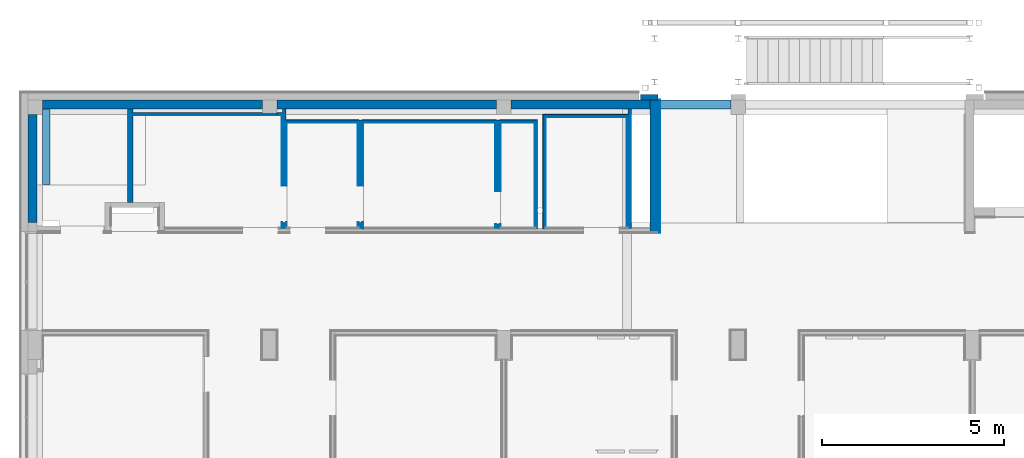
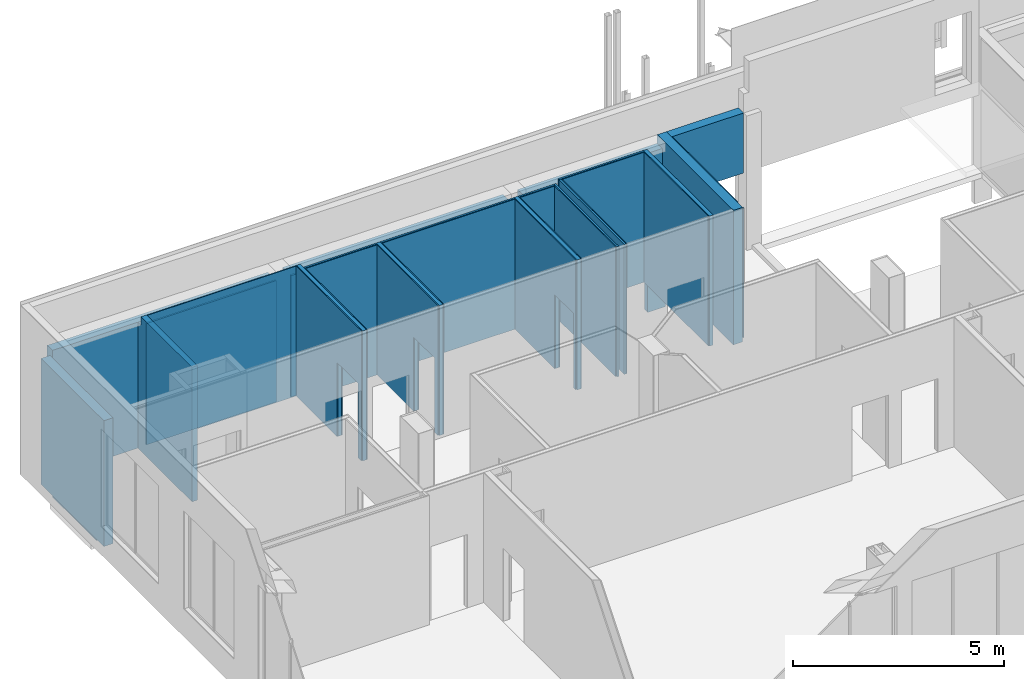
# One storey, part 23 of 29: 36 walls, 9 openings.
"""IFC2X3 building model written with IfcOpenShell, lengths in centimetres."""

from ifc_helpers import new_model, entity, si_unit, converted_unit, derived_unit, direction, frame, frame_2d, origin, origin_2d_with_axis, place, context, subcontext, project, spatial, polyline, rectangle, extrude, clip, bounded_halfspace, material, layer, layer_set, layer_usage, type_object, element, save


model = new_model("IFC2X3")

# Units and contexts
model_context = context("Model", 3, precision=0.001, world=origin(), true_north=direction((6.12303176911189e-17, 1.0)))
body_context = subcontext(model_context, "Body", "Model", "MODEL_VIEW")
ifc_project = project(units=[si_unit("LENGTHUNIT", "METRE", prefix="CENTI"), si_unit("AREAUNIT", "SQUARE_METRE"), si_unit("VOLUMEUNIT", "CUBIC_METRE"), converted_unit("PLANEANGLEUNIT", "DEGREE", entity("IfcRatioMeasure", 0.0174532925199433), si_unit("PLANEANGLEUNIT", "RADIAN"), dimensions=[0, 0, 0, 0, 0, 0, 0]), si_unit("MASSUNIT", "GRAM", prefix="KILO"), derived_unit("MASSDENSITYUNIT", [(si_unit("MASSUNIT", "GRAM", prefix="KILO"), 1), (si_unit("LENGTHUNIT", "METRE"), -3)]), derived_unit("MOMENTOFINERTIAUNIT", [(si_unit("LENGTHUNIT", "METRE"), 4)]), si_unit("TIMEUNIT", "SECOND"), si_unit("FREQUENCYUNIT", "HERTZ"), si_unit("THERMODYNAMICTEMPERATUREUNIT", "DEGREE_CELSIUS"), derived_unit("THERMALTRANSMITTANCEUNIT", [(si_unit("MASSUNIT", "GRAM", prefix="KILO"), 1), (si_unit("THERMODYNAMICTEMPERATUREUNIT", "KELVIN"), -1), (si_unit("TIMEUNIT", "SECOND"), -3)]), derived_unit("VOLUMETRICFLOWRATEUNIT", [(si_unit("LENGTHUNIT", "METRE"), 3), (si_unit("TIMEUNIT", "SECOND"), -1)]), si_unit("ELECTRICCURRENTUNIT", "AMPERE"), si_unit("ELECTRICVOLTAGEUNIT", "VOLT"), si_unit("POWERUNIT", "WATT"), si_unit("FORCEUNIT", "NEWTON", prefix="KILO"), si_unit("ILLUMINANCEUNIT", "LUX"), si_unit("LUMINOUSFLUXUNIT", "LUMEN"), si_unit("LUMINOUSINTENSITYUNIT", "CANDELA"), derived_unit("USERDEFINED", [(si_unit("MASSUNIT", "GRAM", prefix="KILO"), -1), (si_unit("LENGTHUNIT", "METRE"), -2), (si_unit("TIMEUNIT", "SECOND"), 3), (si_unit("LUMINOUSFLUXUNIT", "LUMEN"), 1)]), derived_unit("LINEARVELOCITYUNIT", [(si_unit("LENGTHUNIT", "METRE"), 1), (si_unit("TIMEUNIT", "SECOND"), -1)]), si_unit("PRESSUREUNIT", "PASCAL"), derived_unit("USERDEFINED", [(si_unit("LENGTHUNIT", "METRE"), -2), (si_unit("MASSUNIT", "GRAM", prefix="KILO"), 1), (si_unit("TIMEUNIT", "SECOND"), -2)]), derived_unit("LINEARFORCEUNIT", [(si_unit("MASSUNIT", "GRAM", prefix="KILO"), 1), (si_unit("LENGTHUNIT", "METRE"), 1), (si_unit("TIMEUNIT", "SECOND"), -2), (si_unit("LENGTHUNIT", "METRE"), -1)]), derived_unit("PLANARFORCEUNIT", [(si_unit("MASSUNIT", "GRAM", prefix="KILO"), 1), (si_unit("LENGTHUNIT", "METRE"), 1), (si_unit("TIMEUNIT", "SECOND"), -2), (si_unit("LENGTHUNIT", "METRE"), -2)])], contexts=[model_context])

# Site, building, storey
site_placement = place(None, origin())
site = spatial("IfcSite", under=ifc_project, at=site_placement, Name="Default", CompositionType="ELEMENT")
building_placement = place(site_placement, origin())
building = spatial("IfcBuilding", under=site, at=building_placement, CompositionType="ELEMENT")
storey_placement = place(building_placement, frame((0.0, 0.0, 545.0)))
storey = spatial("IfcBuildingStorey", under=building, at=storey_placement, Name="Poziom 1K +5,45", CompositionType="ELEMENT", Elevation=544.999999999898)

# Walls
ifc_material_1 = material(Name="_Beton C30/37")
ifc_layer_1 = layer(ifc_material_1, 25.0)
ifc_layer_set_1 = layer_set([ifc_layer_1], Name="Ściana podstawowa:Ściana żelbetowa gr. 25cm")
ifc_layer_usage_1 = layer_usage(ifc_layer_set_1, "AXIS2", "POSITIVE", -12.5)
wall_type_1 = type_object("IfcWallType", Name="Ściana podstawowa:Ściana żelbetowa gr. 25cm", PredefinedType="STANDARD", material=ifc_layer_set_1)
wall_1_placement = place(storey_placement, frame((-1209.2650935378, 2105.12745207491, 0.0), z_axis=(0.0, 0.0, 1.0), x_axis=(0.0, -1.0, 0.0)))
element("IfcWallStandardCase", 1, at=wall_1_placement, inside=storey, type_object=wall_type_1, material=ifc_layer_usage_1, Name="Ściana podstawowa:Ściana żelbetowa gr. 25cm", ObjectType="Ściana podstawowa:Ściana żelbetowa gr. 25cm", context=body_context, shape_type="SweptSolid", body=[
    extrude(rectangle(XDim=362.000000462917, YDim=24.9999999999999, at=frame_2d((181.000000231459, 0.0), x_axis=(-1.0, 0.0))), origin(), (0.0, 0.0, 1.0), 390.000000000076),
])
ifc_layer_usage_2 = layer_usage(ifc_layer_set_1, "AXIS2", "POSITIVE", -12.5)
wall_2_placement = place(storey_placement, frame((-2894.26510657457, 2092.62745206, 0.0)))
element("IfcWallStandardCase", 2, at=wall_2_placement, inside=storey, type_object=wall_type_1, material=ifc_layer_usage_2, Name="Ściana podstawowa:Ściana żelbetowa gr. 25cm", ObjectType="Ściana podstawowa:Ściana żelbetowa gr. 25cm", context=body_context, shape_type="SweptSolid", body=[
    extrude(rectangle(XDim=604.999997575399, YDim=25.0000000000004, at=frame_2d((302.499998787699, 7.105427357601e-14), x_axis=(-1.0, 0.0))), origin(), (0.0, 0.0, 1.0), 365.000000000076),
])
ifc_layer_usage_3 = layer_usage(ifc_layer_set_1, "AXIS2", "POSITIVE", -12.5)
wall_3_placement = place(storey_placement, frame((-2249.26511188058, 2092.62745206, 0.0)))
element("IfcWallStandardCase", 3, at=wall_3_placement, inside=storey, type_object=wall_type_1, material=ifc_layer_usage_3, Name="Ściana podstawowa:Ściana żelbetowa gr. 25cm", ObjectType="Ściana podstawowa:Ściana żelbetowa gr. 25cm", context=body_context, shape_type="SweptSolid", body=[
    extrude(rectangle(XDim=604.999997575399, YDim=25.0000000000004, at=frame_2d((302.499998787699, 7.105427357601e-14), x_axis=(-1.0, 0.0))), origin(), (0.0, 0.0, 1.0), 365.000000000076),
])
ifc_layer_usage_4 = layer_usage(ifc_layer_set_1, "AXIS2", "POSITIVE", -12.5)
wall_4_placement = place(storey_placement, frame((-1604.26510899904, 2092.62745206, 0.0)))
element("IfcWallStandardCase", 4, at=wall_4_placement, inside=storey, type_object=wall_type_1, material=ifc_layer_usage_4, Name="Ściana podstawowa:Ściana żelbetowa gr. 25cm", ObjectType="Ściana podstawowa:Ściana żelbetowa gr. 25cm", context=body_context, shape_type="SweptSolid", body=[
    extrude(rectangle(XDim=382.500015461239, YDim=25.0000000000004, at=frame_2d((191.250007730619, 4.44089209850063e-14), x_axis=(-1.0, 0.0))), origin(), (0.0, 0.0, 1.0), 365.000000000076),
])
ifc_layer_usage_5 = layer_usage(ifc_layer_set_1, "AXIS2", "NEGATIVE", 12.5)
wall_5_placement = place(storey_placement, frame((-1196.7650935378, 2092.62745207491, 216.0)))
element("IfcWallStandardCase", 5, at=wall_5_placement, inside=storey, type_object=wall_type_1, material=ifc_layer_usage_5, Name="Ściana podstawowa:Ściana żelbetowa gr. 25cm", ObjectType="Ściana podstawowa:Ściana żelbetowa gr. 25cm", context=body_context, shape_type="SweptSolid", body=[
    extrude(rectangle(XDim=197.499984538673, YDim=25.0000000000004, at=frame_2d((98.7499922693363, 0.0), x_axis=(-1.0, 0.0))), origin(), (0.0, 0.0, 1.0), 174.000000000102),
])
ifc_material_2 = material(Name="Pustak ceramiczny, klasa 15")
ifc_layer_2 = layer(ifc_material_2, 25.0)
ifc_layer_set_2 = layer_set([ifc_layer_2], Name="Ściana podstawowa:Ściana murowana gr. 25cm")
ifc_layer_usage_6 = layer_usage(ifc_layer_set_2, "AXIS2", "POSITIVE", -12.5)
wall_type_2 = type_object("IfcWallType", Name="Ściana podstawowa:Ściana murowana gr. 25cm", PredefinedType="STANDARD", material=ifc_layer_set_2)
wall_6_placement = place(storey_placement, frame((-2921.76510657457, 2065.12745207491, 0.0), z_axis=(0.0, 0.0, 1.0), x_axis=(0.0, -1.0, 0.0)))
element("IfcWallStandardCase", 6, at=wall_6_placement, inside=storey, type_object=wall_type_2, material=ifc_layer_usage_6, Name="Ściana podstawowa:Ściana murowana gr. 25cm", ObjectType="Ściana podstawowa:Ściana murowana gr. 25cm", context=body_context, shape_type="SweptSolid", body=[
    extrude(rectangle(XDim=298.000000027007, YDim=25.0000000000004, at=frame_2d((149.000000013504, 0.0), x_axis=(-1.0, 0.0))), origin(), (0.0, 0.0, 1.0), 365.000000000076),
])
ifc_material_3 = material(Name="Pustak silikatowy")
ifc_layer_3 = layer(ifc_material_3, 15.0)
ifc_layer_set_3 = layer_set([ifc_layer_3], Name="Ściana podstawowa:Ściana murowana bloczki silikatowegr. 15cm")
ifc_layer_usage_7 = layer_usage(ifc_layer_set_3, "AXIS2", "NEGATIVE", 7.5)
wall_type_3 = type_object("IfcWallType", Name="Ściana podstawowa:Ściana murowana bloczki silikatowegr. 15cm", PredefinedType="STANDARD", material=ifc_layer_set_3)
wall_7_placement = place(storey_placement, frame((-2652.76510453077, 2080.12745206, 0.0), z_axis=(0.0, 0.0, 1.0), x_axis=(0.0, -1.0, 0.0)))
element("IfcWallStandardCase", 7, at=wall_7_placement, inside=storey, type_object=wall_type_3, material=ifc_layer_usage_7, Name="Ściana podstawowa:Ściana murowana bloczki silikatowegr. 15cm", ObjectType="Ściana podstawowa:Ściana murowana bloczki silikatowegr. 15cm", context=body_context, shape_type="Clipping", body=[
    clip(clip(extrude(rectangle(XDim=257.000000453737, YDim=15.0000000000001, at=frame_2d((128.500000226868, 0.0), x_axis=(-1.0, 0.0))), origin(), (0.0, 0.0, 1.0), 390.000000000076), bounded_halfspace(frame((15.0, 7.50000000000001, 365.0), z_axis=(-1.0, 0.0, 0.0), x_axis=(0.0, 0.0, -1.0)), False, frame((15.0, 7.50000000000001, 365.0), z_axis=(-1.0, 0.0, 0.0), x_axis=(0.0, 0.0, -1.0)), polyline([(0.0, 0.0), (0.0, 15.0), (-25.0, 15.0), (-25.0, 0.0), (0.0, 0.0)]))), bounded_halfspace(frame((15.0, -7.50000000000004, 365.0), z_axis=(0.0, 0.0, 1.0), x_axis=(-1.0, 0.0, 0.0)), False, frame((15.0, -7.50000000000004, 365.0), z_axis=(0.0, 0.0, 1.0), x_axis=(-1.0, 0.0, 0.0)), polyline([(0.0, 0.0), (0.0, -15.0), (15.0, -15.0), (15.0, 0.0), (0.0, 0.0)]))),
])

# Wall, opening
ifc_material_4 = material(Name="Wełna skalna")
ifc_layer_4 = layer(ifc_material_4, 10.0)
ifc_layer_set_4 = layer_set([ifc_layer_4], Name="Ściana podstawowa:Ściana GK rdzeń gr. 10cm")
ifc_layer_usage_8 = layer_usage(ifc_layer_set_4, "AXIS2", "NEGATIVE", 5.0)
wall_type_4 = type_object("IfcWallType", Name="Ściana podstawowa:Ściana GK rdzeń gr. 10cm", PredefinedType="STANDARD", material=ifc_layer_set_4)
wall_8_placement = place(storey_placement, frame((-2228.76511745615, 2080.12745206, 13.0), z_axis=(0.0, 0.0, 1.0), x_axis=(0.0, -1.0, 0.0)))
wall_8 = element("IfcWallStandardCase", 8, at=wall_8_placement, inside=storey, type_object=wall_type_4, material=ifc_layer_usage_8, Name="Ściana podstawowa:Ściana GK rdzeń gr. 10cm", ObjectType="Ściana podstawowa:Ściana GK rdzeń gr. 10cm", context=body_context, shape_type="Clipping", body=[
    clip(clip(extrude(rectangle(XDim=329.500000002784, YDim=10.0000000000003, at=frame_2d((164.750000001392, -8.88178419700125e-16), x_axis=(-1.0, 0.0))), origin(), (0.0, 0.0, 1.0), 377.000000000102), bounded_halfspace(frame((15.0, 5.0, 352.0), z_axis=(-1.0, 0.0, 0.0), x_axis=(0.0, 0.0, -1.0)), False, frame((15.0, 5.0, 352.0), z_axis=(-1.0, 0.0, 0.0), x_axis=(0.0, 0.0, -1.0)), polyline([(0.0, 0.0), (0.0, 10.0), (-25.0, 10.0), (-25.0, 0.0), (0.0, 0.0)]))), bounded_halfspace(frame((15.0, -5.0, 352.0), z_axis=(0.0, 0.0, 1.0), x_axis=(-1.0, 0.0, 0.0)), False, frame((15.0, -5.0, 352.0), z_axis=(0.0, 0.0, 1.0), x_axis=(-1.0, 0.0, 0.0)), polyline([(0.0, 0.0), (0.0, -10.0), (15.0, -10.0), (15.0, 0.0), (0.0, 0.0)]))),
])
opening_1_placement = place(wall_8_placement, origin())
element("IfcOpeningElement", 9, at=opening_1_placement, cuts=wall_8, Name="Ściana podstawowa:Ściana GK rdzeń gr. 10cm", ObjectType="Opening", context=body_context, shape_type="SweptSolid", body=[
    extrude(rectangle(XDim=215.0, YDim=100.0, at=frame_2d((1.10134124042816e-13, 0.0), x_axis=(0.0, 1.0))), frame((262.0, -157.4, 107.5), z_axis=(0.0, 1.0, 0.0), x_axis=(1.0, 0.0, 0.0)), (0.0, 0.0, 1.0), 304.8),
])

ifc_layer_usage_9 = layer_usage(ifc_layer_set_4, "AXIS2", "NEGATIVE", 5.0)
wall_9_placement = place(storey_placement, frame((-2018.76511746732, 2050.12745209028, 13.0), z_axis=(0.0, 0.0, 1.0), x_axis=(0.0, -1.0, 0.0)))
wall_9 = element("IfcWallStandardCase", 10, at=wall_9_placement, inside=storey, type_object=wall_type_4, material=ifc_layer_usage_9, Name="Ściana podstawowa:Ściana GK rdzeń gr. 10cm", ObjectType="Ściana podstawowa:Ściana GK rdzeń gr. 10cm", context=body_context, shape_type="SweptSolid", body=[
    extrude(rectangle(XDim=299.500000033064, YDim=10.0000000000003, at=frame_2d((149.750000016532, 0.0), x_axis=(-1.0, 0.0))), origin(), (0.0, 0.0, 1.0), 377.000000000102),
])
opening_2_placement = place(wall_9_placement, origin())
element("IfcOpeningElement", 11, at=opening_2_placement, cuts=wall_9, Name="Ściana podstawowa:Ściana GK rdzeń gr. 10cm", ObjectType="Opening", context=body_context, shape_type="SweptSolid", body=[
    extrude(rectangle(XDim=215.0, YDim=100.0, at=frame_2d((0.0, 1.06581410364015e-13), x_axis=(1.0, 0.0))), frame((232.0, -147.4, 107.5), z_axis=(0.0, 1.0, 0.0), x_axis=(0.0, 0.0, -1.0)), (0.0, 0.0, 1.0), 304.8),
])

ifc_layer_usage_10 = layer_usage(ifc_layer_set_4, "AXIS2", "NEGATIVE", 5.0)
wall_10_placement = place(storey_placement, frame((-1640.7651174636, 2050.12745209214, 13.0), z_axis=(0.0, 0.0, 1.0), x_axis=(0.0, -1.0, 0.0)))
wall_10 = element("IfcWallStandardCase", 12, at=wall_10_placement, inside=storey, type_object=wall_type_4, material=ifc_layer_usage_10, Name="Ściana podstawowa:Ściana GK rdzeń gr. 10cm", ObjectType="Ściana podstawowa:Ściana GK rdzeń gr. 10cm", context=body_context, shape_type="SweptSolid", body=[
    extrude(rectangle(XDim=299.500000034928, YDim=9.99999999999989, at=frame_2d((149.750000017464, 0.0), x_axis=(-1.0, 0.0))), origin(), (0.0, 0.0, 1.0), 377.000000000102),
])
opening_3_placement = place(wall_10_placement, origin())
element("IfcOpeningElement", 13, at=opening_3_placement, cuts=wall_10, Name="Ściana podstawowa:Ściana GK rdzeń gr. 10cm", ObjectType="Opening", context=body_context, shape_type="SweptSolid", body=[
    extrude(rectangle(XDim=215.0, YDim=89.9999999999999, at=origin_2d_with_axis()), frame((242.0, -147.4, 107.5), z_axis=(0.0, 1.0, 0.0), x_axis=(0.0, 0.0, -1.0)), (0.0, 0.0, 1.0), 304.8),
])

# Walls
ifc_layer_usage_11 = layer_usage(ifc_layer_set_4, "AXIS2", "NEGATIVE", 5.0)
wall_11_placement = place(storey_placement, frame((-1277.7651174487, 2080.12745206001, 13.0), z_axis=(0.0, 0.0, 1.0), x_axis=(0.0, -1.0, 0.0)))
element("IfcWallStandardCase", 14, at=wall_11_placement, inside=storey, type_object=wall_type_4, material=ifc_layer_usage_11, Name="Ściana podstawowa:Ściana GK rdzeń gr. 10cm", ObjectType="Ściana podstawowa:Ściana GK rdzeń gr. 10cm", context=body_context, shape_type="Clipping", body=[
    clip(clip(extrude(rectangle(XDim=329.500000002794, YDim=9.99999999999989, at=frame_2d((164.750000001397, -8.88178419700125e-16), x_axis=(-1.0, 0.0))), origin(), (0.0, 0.0, 1.0), 377.000000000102), bounded_halfspace(frame((15.0, 5.0, 352.0), z_axis=(-1.0, 0.0, 0.0), x_axis=(0.0, 0.0, -1.0)), False, frame((15.0, 5.0, 352.0), z_axis=(-1.0, 0.0, 0.0), x_axis=(0.0, 0.0, -1.0)), polyline([(0.0, 0.0), (0.0, 10.0), (-25.0, 10.0), (-25.0, 0.0), (0.0, 0.0)]))), bounded_halfspace(frame((15.0, -5.0, 352.0), z_axis=(0.0, 0.0, 1.0), x_axis=(-1.0, 0.0, 0.0)), False, frame((15.0, -5.0, 352.0), z_axis=(0.0, 0.0, 1.0), x_axis=(-1.0, 0.0, 0.0)), polyline([(0.0, 0.0), (0.0, -10.0), (15.0, -10.0), (15.0, 0.0), (0.0, 0.0)]))),
])
ifc_layer_5 = layer(ifc_material_4, 5.0)
ifc_layer_set_5 = layer_set([ifc_layer_5], Name="Ściana podstawowa:Ściana GK rdzeń gr. 5cm")
ifc_layer_usage_12 = layer_usage(ifc_layer_set_5, "AXIS2", "NEGATIVE", 2.5)
wall_type_5 = type_object("IfcWallType", Name="Ściana podstawowa:Ściana GK rdzeń gr. 5cm", PredefinedType="STANDARD", material=ifc_layer_set_5)
wall_12_placement = place(storey_placement, frame((-1514.26511747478, 1750.62745205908, 13.0), z_axis=(0.0, 0.0, 1.0), x_axis=(0.0, 1.0, 0.0)))
element("IfcWallStandardCase", 15, at=wall_12_placement, inside=storey, type_object=wall_type_5, material=ifc_layer_usage_12, Name="Ściana podstawowa:Ściana GK rdzeń gr. 5cm", ObjectType="Ściana podstawowa:Ściana GK rdzeń gr. 5cm", context=body_context, shape_type="SweptSolid", body=[
    extrude(rectangle(XDim=309.500000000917, YDim=5.00000000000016, at=frame_2d((154.750000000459, -3.33066907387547e-15), x_axis=(-1.0, 0.0))), origin(), (0.0, 0.0, 1.0), 377.000000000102),
])
ifc_layer_usage_13 = layer_usage(ifc_layer_set_5, "AXIS2", "NEGATIVE", 2.5)
wall_13_placement = place(storey_placement, frame((-1516.76511747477, 2062.62745206, 13.0)))
element("IfcWallStandardCase", 16, at=wall_13_placement, inside=storey, type_object=wall_type_5, material=ifc_layer_usage_13, Name="Ściana podstawowa:Ściana GK rdzeń gr. 5cm", ObjectType="Ściana podstawowa:Ściana GK rdzeń gr. 5cm", context=body_context, shape_type="SweptSolid", body=[
    extrude(rectangle(XDim=234.000000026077, YDim=4.99999999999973, at=frame_2d((117.000000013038, -3.10862446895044e-15), x_axis=(-1.0, 0.0))), origin(), (0.0, 0.0, 1.0), 377.000000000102),
])
ifc_layer_usage_14 = layer_usage(ifc_layer_set_5, "AXIS2", "NEGATIVE", 2.5)
wall_14_placement = place(storey_placement, frame((-1534.26511747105, 2050.12745208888, 13.0), z_axis=(0.0, 0.0, 1.0), x_axis=(0.0, -1.0, 0.0)))
element("IfcWallStandardCase", 17, at=wall_14_placement, inside=storey, type_object=wall_type_5, material=ifc_layer_usage_14, Name="Ściana podstawowa:Ściana GK rdzeń gr. 5cm", ObjectType="Ściana podstawowa:Ściana GK rdzeń gr. 5cm", context=body_context, shape_type="SweptSolid", body=[
    extrude(rectangle(XDim=299.500000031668, YDim=5.00000000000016, at=frame_2d((149.750000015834, 0.0), x_axis=(-1.0, 0.0))), origin(), (0.0, 0.0, 1.0), 377.000000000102),
])
ifc_layer_usage_15 = layer_usage(ifc_layer_set_5, "AXIS2", "NEGATIVE", 2.5)
wall_15_placement = place(storey_placement, frame((-2223.76511745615, 2047.62745209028, 13.0)))
element("IfcWallStandardCase", 18, at=wall_15_placement, inside=storey, type_object=wall_type_5, material=ifc_layer_usage_15, Name="Ściana podstawowa:Ściana GK rdzeń gr. 5cm", ObjectType="Ściana podstawowa:Ściana GK rdzeń gr. 5cm", context=body_context, shape_type="SweptSolid", body=[
    extrude(rectangle(XDim=199.999999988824, YDim=4.99999999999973, at=frame_2d((99.999999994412, 9.88098491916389e-14), x_axis=(-1.0, 0.0))), origin(), (0.0, 0.0, 1.0), 377.000000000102),
])
ifc_layer_usage_16 = layer_usage(ifc_layer_set_5, "AXIS2", "NEGATIVE", 2.5)
wall_16_placement = place(storey_placement, frame((-1635.7651174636, 2047.62745209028, 13.0)))
element("IfcWallStandardCase", 19, at=wall_16_placement, inside=storey, type_object=wall_type_5, material=ifc_layer_usage_16, Name="Ściana podstawowa:Ściana GK rdzeń gr. 5cm", ObjectType="Ściana podstawowa:Ściana GK rdzeń gr. 5cm", context=body_context, shape_type="SweptSolid", body=[
    extrude(rectangle(XDim=98.9999999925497, YDim=4.99999999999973, at=frame_2d((49.4999999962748, -6.03961325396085e-14), x_axis=(-1.0, 0.0))), origin(), (0.0, 0.0, 1.0), 377.000000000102),
])
ifc_layer_usage_17 = layer_usage(ifc_layer_set_5, "AXIS2", "NEGATIVE", 2.5)
wall_17_placement = place(storey_placement, frame((-2013.76511746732, 2047.62745209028, 13.0)))
element("IfcWallStandardCase", 20, at=wall_17_placement, inside=storey, type_object=wall_type_5, material=ifc_layer_usage_17, Name="Ściana podstawowa:Ściana GK rdzeń gr. 5cm", ObjectType="Ściana podstawowa:Ściana GK rdzeń gr. 5cm", context=body_context, shape_type="SweptSolid", body=[
    extrude(rectangle(XDim=368.000000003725, YDim=4.99999999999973, at=frame_2d((184.000000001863, 1.46993528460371e-13), x_axis=(-1.0, 0.0))), origin(), (0.0, 0.0, 1.0), 377.000000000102),
])
ifc_layer_usage_18 = layer_usage(ifc_layer_set_5, "AXIS2", "NEGATIVE", 2.5)
wall_18_placement = place(storey_placement, frame((-2645.26510453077, 2067.62745207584, 13.0)))
element("IfcWallStandardCase", 21, at=wall_18_placement, inside=storey, type_object=wall_type_5, material=ifc_layer_usage_18, Name="Ściana podstawowa:Ściana GK rdzeń gr. 5cm", ObjectType="Ściana podstawowa:Ściana GK rdzeń gr. 5cm", context=body_context, shape_type="Clipping", body=[
    clip(extrude(rectangle(XDim=355.999995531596, YDim=4.99999999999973, at=frame_2d((177.999997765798, 0.0), x_axis=(-1.0, 0.0))), origin(), (0.0, 0.0, 1.0), 351.99999999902), bounded_halfspace(frame((0.0, -2.5000000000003, 352.0), z_axis=(0.0, 0.0, 1.0), x_axis=(0.0, 1.0, 0.0)), False, frame((0.0, -2.5000000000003, 352.0), z_axis=(0.0, 0.0, 1.0), x_axis=(0.0, 1.0, 0.0)), polyline([(0.0, 0.0), (0.0, -355.999995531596), (5.0, -355.999995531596), (5.0, 0.0), (0.0, 0.0)]))),
])
ifc_layer_usage_19 = layer_usage(ifc_layer_set_5, "AXIS2", "NEGATIVE", 2.5)
wall_19_placement = place(storey_placement, frame((-2249.26510899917, 2067.62745207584, 13.0)))
element("IfcWallStandardCase", 22, at=wall_19_placement, inside=storey, type_object=wall_type_5, material=ifc_layer_usage_19, Name="Ściana podstawowa:Ściana GK rdzeń gr. 5cm", ObjectType="Ściana podstawowa:Ściana GK rdzeń gr. 5cm", context=body_context, shape_type="Clipping", body=[
    clip(extrude(rectangle(XDim=15.4999915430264, YDim=4.99999999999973, at=frame_2d((7.7499957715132, 0.0), x_axis=(-1.0, 0.0))), origin(), (0.0, 0.0, 1.0), 351.99999999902), bounded_halfspace(frame((0.0, -2.5000000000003, 352.0), z_axis=(0.0, 0.0, 1.0), x_axis=(0.0, 1.0, 0.0)), False, frame((0.0, -2.5000000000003, 352.0), z_axis=(0.0, 0.0, 1.0), x_axis=(0.0, 1.0, 0.0)), polyline([(0.0, 0.0), (0.0, -15.4999915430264), (5.0, -15.4999915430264), (5.0, 0.0), (0.0, 0.0)]))),
])
ifc_material_5 = material(Name="Tynk gipsowy")
ifc_layer_6 = layer(ifc_material_5, 2.5)
ifc_layer_set_6 = layer_set([ifc_layer_6], Name="Ściana podstawowa:Ściana GK wykonczenie gr. 2,5cm")
ifc_layer_usage_20 = layer_usage(ifc_layer_set_6, "AXIS2", "NEGATIVE", 1.25)
wall_type_6 = type_object("IfcWallType", Name="Ściana podstawowa:Ściana GK wykonczenie gr. 2,5cm", PredefinedType="STANDARD", material=ifc_layer_set_6)
wall_20_placement = place(storey_placement, frame((-2645.26510453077, 2063.87745207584, 13.0)))
element("IfcWallStandardCase", 23, at=wall_20_placement, inside=storey, type_object=wall_type_6, material=ifc_layer_usage_20, Name="Ściana podstawowa:Ściana GK wykonczenie gr. 2,5cm", ObjectType="Ściana podstawowa:Ściana GK wykonczenie gr. 2,5cm", context=body_context, shape_type="SweptSolid", body=[
    extrude(rectangle(XDim=411.499987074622, YDim=2.5000000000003, at=frame_2d((205.749993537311, 0.0), x_axis=(-1.0, 0.0))), origin(), (0.0, 0.0, 1.0), 377.000000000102),
])

# Wall, opening
ifc_layer_usage_21 = layer_usage(ifc_layer_set_6, "AXIS2", "NEGATIVE", 1.25)
wall_21_placement = place(storey_placement, frame((-2235.01511745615, 2062.62745207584, 13.0), z_axis=(0.0, 0.0, 1.0), x_axis=(0.0, -1.0, 0.0)))
wall_21 = element("IfcWallStandardCase", 24, at=wall_21_placement, inside=storey, type_object=wall_type_6, material=ifc_layer_usage_21, Name="Ściana podstawowa:Ściana GK wykonczenie gr. 2,5cm", ObjectType="Ściana podstawowa:Ściana GK wykonczenie gr. 2,5cm", context=body_context, shape_type="SweptSolid", body=[
    extrude(rectangle(XDim=309.500000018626, YDim=2.5000000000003, at=frame_2d((154.750000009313, -3.5527136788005e-15), x_axis=(-1.0, 0.0))), origin(), (0.0, 0.0, 1.0), 377.000000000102),
])
opening_4_placement = place(wall_21_placement, origin())
element("IfcOpeningElement", 25, at=opening_4_placement, cuts=wall_21, Name="Ściana podstawowa:Ściana GK wykonczenie gr. 2,5cm", ObjectType="Opening", context=body_context, shape_type="SweptSolid", body=[
    extrude(rectangle(XDim=215.0, YDim=100.0, at=frame_2d((1.10134124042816e-13, 0.0), x_axis=(0.0, 1.0))), frame((244.500000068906, -151.15, 107.5), z_axis=(0.0, 1.0, 0.0), x_axis=(1.0, 0.0, 0.0)), (0.0, 0.0, 1.0), 304.8),
])

ifc_layer_usage_22 = layer_usage(ifc_layer_set_6, "AXIS2", "NEGATIVE", 1.25)
wall_22_placement = place(storey_placement, frame((-2222.51511745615, 1750.62745205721, 13.0), z_axis=(0.0, 0.0, 1.0), x_axis=(0.0, 1.0, 0.0)))
wall_22 = element("IfcWallStandardCase", 26, at=wall_22_placement, inside=storey, type_object=wall_type_6, material=ifc_layer_usage_22, Name="Ściana podstawowa:Ściana GK wykonczenie gr. 2,5cm", ObjectType="Ściana podstawowa:Ściana GK wykonczenie gr. 2,5cm", context=body_context, shape_type="SweptSolid", body=[
    extrude(rectangle(XDim=292.000000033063, YDim=2.5000000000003, at=frame_2d((146.000000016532, -1.77635683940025e-15), x_axis=(-1.0, 0.0))), origin(), (0.0, 0.0, 1.0), 377.000000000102),
])
opening_5_placement = place(wall_22_placement, origin())
element("IfcOpeningElement", 27, at=opening_5_placement, cuts=wall_22, Name="Ściana podstawowa:Ściana GK wykonczenie gr. 2,5cm", ObjectType="Opening", context=body_context, shape_type="SweptSolid", body=[
    extrude(rectangle(XDim=215.0, YDim=100.0, at=frame_2d((0.0, -1.10134124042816e-13), x_axis=(1.0, 0.0))), frame((67.4999999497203, -141.149999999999, 107.5), z_axis=(0.0, 1.0, 0.0), x_axis=(0.0, 0.0, -1.0)), (0.0, 0.0, 1.0), 304.8),
])

# Wall
ifc_layer_usage_23 = layer_usage(ifc_layer_set_6, "AXIS2", "NEGATIVE", 1.25)
wall_23_placement = place(storey_placement, frame((-2223.76511745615, 2043.87745209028, 13.0)))
element("IfcWallStandardCase", 28, at=wall_23_placement, inside=storey, type_object=wall_type_6, material=ifc_layer_usage_23, Name="Ściana podstawowa:Ściana GK wykonczenie gr. 2,5cm", ObjectType="Ściana podstawowa:Ściana GK wykonczenie gr. 2,5cm", context=body_context, shape_type="SweptSolid", body=[
    extrude(rectangle(XDim=199.999999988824, YDim=2.5000000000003, at=frame_2d((99.999999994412, 0.0), x_axis=(-1.0, 0.0))), origin(), (0.0, 0.0, 1.0), 377.000000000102),
])

# Wall, opening
ifc_layer_usage_24 = layer_usage(ifc_layer_set_6, "AXIS2", "NEGATIVE", 1.25)
wall_24_placement = place(storey_placement, frame((-2025.01511746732, 2042.62745209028, 13.0), z_axis=(0.0, 0.0, 1.0), x_axis=(0.0, -1.0, 0.0)))
wall_24 = element("IfcWallStandardCase", 29, at=wall_24_placement, inside=storey, type_object=wall_type_6, material=ifc_layer_usage_24, Name="Ściana podstawowa:Ściana GK wykonczenie gr. 2,5cm", ObjectType="Ściana podstawowa:Ściana GK wykonczenie gr. 2,5cm", context=body_context, shape_type="SweptSolid", body=[
    extrude(rectangle(XDim=289.500000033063, YDim=2.5000000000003, at=frame_2d((144.750000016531, -3.77475828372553e-15), x_axis=(-1.0, 0.0))), origin(), (0.0, 0.0, 1.0), 377.000000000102),
])
opening_6_placement = place(wall_24_placement, origin())
element("IfcOpeningElement", 30, at=opening_6_placement, cuts=wall_24, Name="Ściana podstawowa:Ściana GK wykonczenie gr. 2,5cm", ObjectType="Opening", context=body_context, shape_type="SweptSolid", body=[
    extrude(rectangle(XDim=215.0, YDim=100.0, at=frame_2d((0.0, 1.06581410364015e-13), x_axis=(1.0, 0.0))), frame((224.500000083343, -141.15, 107.5), z_axis=(0.0, 1.0, 0.0), x_axis=(0.0, 0.0, -1.0)), (0.0, 0.0, 1.0), 304.8),
])

ifc_layer_usage_25 = layer_usage(ifc_layer_set_6, "AXIS2", "NEGATIVE", 1.25)
wall_25_placement = place(storey_placement, frame((-2012.51511746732, 1750.62745205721, 13.0), z_axis=(0.0, 0.0, 1.0), x_axis=(0.0, 1.0, 0.0)))
wall_25 = element("IfcWallStandardCase", 31, at=wall_25_placement, inside=storey, type_object=wall_type_6, material=ifc_layer_usage_25, Name="Ściana podstawowa:Ściana GK wykonczenie gr. 2,5cm", ObjectType="Ściana podstawowa:Ściana GK wykonczenie gr. 2,5cm", context=body_context, shape_type="SweptSolid", body=[
    extrude(rectangle(XDim=292.000000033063, YDim=2.5000000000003, at=frame_2d((146.000000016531, -1.77635683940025e-15), x_axis=(-1.0, 0.0))), origin(), (0.0, 0.0, 1.0), 377.000000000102),
])
opening_7_placement = place(wall_25_placement, origin())
element("IfcOpeningElement", 32, at=opening_7_placement, cuts=wall_25, Name="Ściana podstawowa:Ściana GK wykonczenie gr. 2,5cm", ObjectType="Opening", context=body_context, shape_type="SweptSolid", body=[
    extrude(rectangle(XDim=215.0, YDim=99.9999999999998, at=frame_2d((1.10134124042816e-13, 0.0), x_axis=(0.0, 1.0))), frame((67.4999999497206, -151.15, 107.5), z_axis=(0.0, 1.0, 0.0), x_axis=(1.0, 0.0, 0.0)), (0.0, 0.0, 1.0), 304.8),
])

# Wall
ifc_layer_usage_26 = layer_usage(ifc_layer_set_6, "AXIS2", "NEGATIVE", 1.25)
wall_26_placement = place(storey_placement, frame((-2013.76511746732, 2043.87745209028, 13.0)))
element("IfcWallStandardCase", 33, at=wall_26_placement, inside=storey, type_object=wall_type_6, material=ifc_layer_usage_26, Name="Ściana podstawowa:Ściana GK wykonczenie gr. 2,5cm", ObjectType="Ściana podstawowa:Ściana GK wykonczenie gr. 2,5cm", context=body_context, shape_type="SweptSolid", body=[
    extrude(rectangle(XDim=368.000000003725, YDim=2.5000000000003, at=frame_2d((184.000000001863, 0.0), x_axis=(-1.0, 0.0))), origin(), (0.0, 0.0, 1.0), 377.000000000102),
])

# Wall, opening
ifc_layer_usage_27 = layer_usage(ifc_layer_set_6, "AXIS2", "NEGATIVE", 1.25)
wall_27_placement = place(storey_placement, frame((-1647.0151174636, 2042.62745209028, 13.0), z_axis=(0.0, 0.0, 1.0), x_axis=(0.0, -1.0, 0.0)))
wall_27 = element("IfcWallStandardCase", 34, at=wall_27_placement, inside=storey, type_object=wall_type_6, material=ifc_layer_usage_27, Name="Ściana podstawowa:Ściana GK wykonczenie gr. 2,5cm", ObjectType="Ściana podstawowa:Ściana GK wykonczenie gr. 2,5cm", context=body_context, shape_type="SweptSolid", body=[
    extrude(rectangle(XDim=289.500000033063, YDim=2.49999999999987, at=frame_2d((144.750000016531, -3.66373598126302e-15), x_axis=(-1.0, 0.0))), origin(), (0.0, 0.0, 1.0), 377.000000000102),
])
opening_8_placement = place(wall_27_placement, origin())
element("IfcOpeningElement", 35, at=opening_8_placement, cuts=wall_27, Name="Ściana podstawowa:Ściana GK wykonczenie gr. 2,5cm", ObjectType="Opening", context=body_context, shape_type="SweptSolid", body=[
    extrude(rectangle(XDim=215.0, YDim=89.9999999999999, at=origin_2d_with_axis()), frame((234.50000006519, -141.15, 107.5), z_axis=(0.0, 1.0, 0.0), x_axis=(0.0, 0.0, -1.0)), (0.0, 0.0, 1.0), 304.8),
])

ifc_layer_usage_28 = layer_usage(ifc_layer_set_6, "AXIS2", "NEGATIVE", 1.25)
wall_28_placement = place(storey_placement, frame((-1634.5151174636, 1750.62745205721, 13.0), z_axis=(0.0, 0.0, 1.0), x_axis=(0.0, 1.0, 0.0)))
wall_28 = element("IfcWallStandardCase", 36, at=wall_28_placement, inside=storey, type_object=wall_type_6, material=ifc_layer_usage_28, Name="Ściana podstawowa:Ściana GK wykonczenie gr. 2,5cm", ObjectType="Ściana podstawowa:Ściana GK wykonczenie gr. 2,5cm", context=body_context, shape_type="SweptSolid", body=[
    extrude(rectangle(XDim=292.000000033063, YDim=2.49999999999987, at=frame_2d((146.000000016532, -1.77635683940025e-15), x_axis=(-1.0, 0.0))), origin(), (0.0, 0.0, 1.0), 377.000000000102),
])
opening_9_placement = place(wall_28_placement, origin())
element("IfcOpeningElement", 37, at=opening_9_placement, cuts=wall_28, Name="Ściana podstawowa:Ściana GK wykonczenie gr. 2,5cm", ObjectType="Opening", context=body_context, shape_type="SweptSolid", body=[
    extrude(rectangle(XDim=215.0, YDim=89.9999999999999, at=frame_2d((0.0, 0.0), x_axis=(0.0, 1.0))), frame((57.4999999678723, -151.15, 107.5), z_axis=(0.0, 1.0, 0.0), x_axis=(1.0, 0.0, 0.0)), (0.0, 0.0, 1.0), 304.8),
])

# Walls
ifc_layer_usage_29 = layer_usage(ifc_layer_set_6, "AXIS2", "NEGATIVE", 1.25)
wall_29_placement = place(storey_placement, frame((-1635.7651174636, 2043.87745209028, 13.0)))
element("IfcWallStandardCase", 38, at=wall_29_placement, inside=storey, type_object=wall_type_6, material=ifc_layer_usage_29, Name="Ściana podstawowa:Ściana GK wykonczenie gr. 2,5cm", ObjectType="Ściana podstawowa:Ściana GK wykonczenie gr. 2,5cm", context=body_context, shape_type="SweptSolid", body=[
    extrude(rectangle(XDim=98.9999999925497, YDim=2.5000000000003, at=frame_2d((49.4999999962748, 0.0), x_axis=(-1.0, 0.0))), origin(), (0.0, 0.0, 1.0), 377.000000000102),
])
ifc_layer_usage_30 = layer_usage(ifc_layer_set_6, "AXIS2", "NEGATIVE", 1.25)
wall_30_placement = place(storey_placement, frame((-1538.01511747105, 2042.62745209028, 13.0), z_axis=(0.0, 0.0, 1.0), x_axis=(0.0, -1.0, 0.0)))
element("IfcWallStandardCase", 39, at=wall_30_placement, inside=storey, type_object=wall_type_6, material=ifc_layer_usage_30, Name="Ściana podstawowa:Ściana GK wykonczenie gr. 2,5cm", ObjectType="Ściana podstawowa:Ściana GK wykonczenie gr. 2,5cm", context=body_context, shape_type="SweptSolid", body=[
    extrude(rectangle(XDim=289.500000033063, YDim=2.49999999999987, at=frame_2d((144.750000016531, -3.66373598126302e-15), x_axis=(-1.0, 0.0))), origin(), (0.0, 0.0, 1.0), 377.000000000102),
])
ifc_layer_usage_31 = layer_usage(ifc_layer_set_6, "AXIS2", "NEGATIVE", 1.25)
wall_31_placement = place(storey_placement, frame((-1510.51511747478, 1750.62745205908, 13.0), z_axis=(0.0, 0.0, 1.0), x_axis=(0.0, 1.0, 0.0)))
element("IfcWallStandardCase", 40, at=wall_31_placement, inside=storey, type_object=wall_type_6, material=ifc_layer_usage_31, Name="Ściana podstawowa:Ściana GK wykonczenie gr. 2,5cm", ObjectType="Ściana podstawowa:Ściana GK wykonczenie gr. 2,5cm", context=body_context, shape_type="SweptSolid", body=[
    extrude(rectangle(XDim=307.000000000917, YDim=2.49999999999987, at=frame_2d((153.500000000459, -1.77635683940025e-15), x_axis=(-1.0, 0.0))), origin(), (0.0, 0.0, 1.0), 377.000000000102),
])
ifc_layer_usage_32 = layer_usage(ifc_layer_set_6, "AXIS2", "NEGATIVE", 1.25)
wall_32_placement = place(storey_placement, frame((-1511.76511747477, 2058.87745206, 13.0)))
element("IfcWallStandardCase", 41, at=wall_32_placement, inside=storey, type_object=wall_type_6, material=ifc_layer_usage_32, Name="Ściana podstawowa:Ściana GK wykonczenie gr. 2,5cm", ObjectType="Ściana podstawowa:Ściana GK wykonczenie gr. 2,5cm", context=body_context, shape_type="SweptSolid", body=[
    extrude(rectangle(XDim=229.000000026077, YDim=2.5000000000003, at=frame_2d((114.500000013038, 0.0), x_axis=(-1.0, 0.0))), origin(), (0.0, 0.0, 1.0), 377.000000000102),
])
ifc_layer_usage_33 = layer_usage(ifc_layer_set_6, "AXIS2", "NEGATIVE", 1.25)
wall_33_placement = place(storey_placement, frame((-1284.0151174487, 2057.62745205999, 13.0), z_axis=(0.0, 0.0, 1.0), x_axis=(0.0, -1.0, 0.0)))
element("IfcWallStandardCase", 42, at=wall_33_placement, inside=storey, type_object=wall_type_6, material=ifc_layer_usage_33, Name="Ściana podstawowa:Ściana GK wykonczenie gr. 2,5cm", ObjectType="Ściana podstawowa:Ściana GK wykonczenie gr. 2,5cm", context=body_context, shape_type="SweptSolid", body=[
    extrude(rectangle(XDim=304.500000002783, YDim=2.49999999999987, at=frame_2d((152.250000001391, -3.44169137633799e-15), x_axis=(-1.0, 0.0))), origin(), (0.0, 0.0, 1.0), 377.000000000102),
])
ifc_layer_7 = layer(ifc_material_5, 2.5)
ifc_layer_set_7 = layer_set([ifc_layer_7], Name="Ściana podstawowa:Tynk wykończenie gr. 2,5cm")
ifc_layer_usage_34 = layer_usage(ifc_layer_set_7, "AXIS2", "NEGATIVE", 1.25)
wall_type_7 = type_object("IfcWallType", Name="Ściana podstawowa:Tynk wykończenie gr. 2,5cm", PredefinedType="STANDARD", material=ifc_layer_set_7)
wall_34_placement = place(storey_placement, frame((-1195.51508927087, 1740.62745171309, 13.0), z_axis=(0.0, 0.0, 1.0), x_axis=(0.0, 1.0, 0.0)))
element("IfcWallStandardCase", 43, at=wall_34_placement, inside=storey, type_object=wall_type_7, material=ifc_layer_usage_34, Name="Ściana podstawowa:Tynk wykończenie gr. 2,5cm", ObjectType="Ściana podstawowa:Tynk wykończenie gr. 2,5cm", context=body_context, shape_type="Clipping", body=[
    clip(clip(clip(extrude(rectangle(XDim=364.500000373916, YDim=2.49999999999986, at=frame_2d((182.250000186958, 0.0), x_axis=(-1.0, 0.0))), origin(), (0.0, 0.0, 1.0), 377.000000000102), bounded_halfspace(frame((2.49999989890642, 1.25000000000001, 222.0), z_axis=(0.0, 0.0, -1.0), x_axis=(0.0, 1.0, 0.0)), True, frame((2.49999989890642, 1.25000000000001, 222.0), z_axis=(0.0, 0.0, -1.0), x_axis=(0.0, 1.0, 0.0)), polyline([(0.0, 0.0), (0.0, 25.0), (-2.5, 25.0), (-2.50000000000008, 0.0), (0.0, 0.0)]))), bounded_halfspace(frame((339.500000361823, -1.25000000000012, 203.0), z_axis=(-1.0, 0.0, 0.0), x_axis=(0.0, -1.0, 0.0)), True, frame((339.500000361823, -1.25000000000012, 203.0), z_axis=(-1.0, 0.0, 0.0), x_axis=(0.0, -1.0, 0.0)), polyline([(0.0, 0.0), (0.0, 174.0), (-2.50000000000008, 174.0), (-2.5000042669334, 0.0), (0.0, 0.0)]))), bounded_halfspace(frame((339.500000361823, 1.25000426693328, 203.0), z_axis=(0.0, 0.0, -1.0), x_axis=(1.0, 0.0, 0.0)), True, frame((339.500000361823, 1.25000426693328, 203.0), z_axis=(0.0, 0.0, -1.0), x_axis=(1.0, 0.0, 0.0)), polyline([(0.0, 0.0), (25.0, 4.26693331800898e-06), (25.0, 2.5000042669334), (0.0, 2.5000042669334), (0.0, 0.0)]))),
])
ifc_layer_8 = layer(ifc_material_4, 20.0)
ifc_layer_set_8 = layer_set([ifc_layer_8], Name="Ściana podstawowa:Wełna mineralna gr. 20cm")
ifc_layer_usage_35 = layer_usage(ifc_layer_set_8, "AXIS2", "NEGATIVE", 10.0)
wall_type_8 = type_object("IfcWallType", Name="Ściana podstawowa:Wełna mineralna gr. 20cm", PredefinedType="STANDARD", material=ifc_layer_set_8)
wall_35_placement = place(storey_placement, frame((-2884.26510657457, 2080.12745206, -60.0), z_axis=(0.0, 0.0, 1.0), x_axis=(0.0, -1.0, 0.0)))
element("IfcWallStandardCase", 44, at=wall_35_placement, inside=storey, type_object=wall_type_8, material=ifc_layer_usage_35, Name="Ściana podstawowa:Wełna mineralna gr. 20cm", ObjectType="Ściana podstawowa:Wełna mineralna gr. 20cm", context=body_context, shape_type="Clipping", body=[
    clip(extrude(rectangle(XDim=207.955921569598, YDim=19.9999999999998, at=frame_2d((103.977960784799, -1.24344978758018e-14), x_axis=(-1.0, 0.0))), origin(), (0.0, 0.0, 1.0), 24.9999999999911), bounded_halfspace(frame((207.955921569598, -10.0, 0.0), z_axis=(0.0, 0.0, 1.0), x_axis=(0.0, -1.0, 0.0)), True, frame((207.955921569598, -10.0, 0.0), z_axis=(0.0, 0.0, 1.0), x_axis=(0.0, -1.0, 0.0)), polyline([(0.0, 0.0), (-20.0, 0.0), (-20.0, -207.955921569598), (0.0, -207.955921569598), (0.0, -192.955921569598), (0.0, 0.0)]))),
])
ifc_layer_9 = layer(ifc_material_4, 15.0)
ifc_layer_set_9 = layer_set([ifc_layer_9], Name="Ściana podstawowa:Wełna mineralna gr. 15cm")
ifc_layer_usage_36 = layer_usage(ifc_layer_set_9, "AXIS2", "NEGATIVE", 7.5)
wall_type_9 = type_object("IfcWallType", Name="Ściana podstawowa:Wełna mineralna gr. 15cm", PredefinedType="STANDARD", material=ifc_layer_set_9)
wall_36_placement = place(storey_placement, frame((-1247.7651152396, 2112.62745209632, -116.5)))
element("IfcWallStandardCase", 45, at=wall_36_placement, inside=storey, type_object=wall_type_9, material=ifc_layer_usage_36, Name="Ściana podstawowa:Wełna mineralna gr. 15cm", ObjectType="Ściana podstawowa:Wełna mineralna gr. 15cm", context=body_context, shape_type="SweptSolid", body=[
    extrude(rectangle(XDim=48.5000000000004, YDim=15.0000000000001, at=frame_2d((24.2500000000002, 0.0), x_axis=(-1.0, 0.0))), origin(), (0.0, 0.0, 1.0), 332.500000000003),
])

save(model, "model.ifc")
